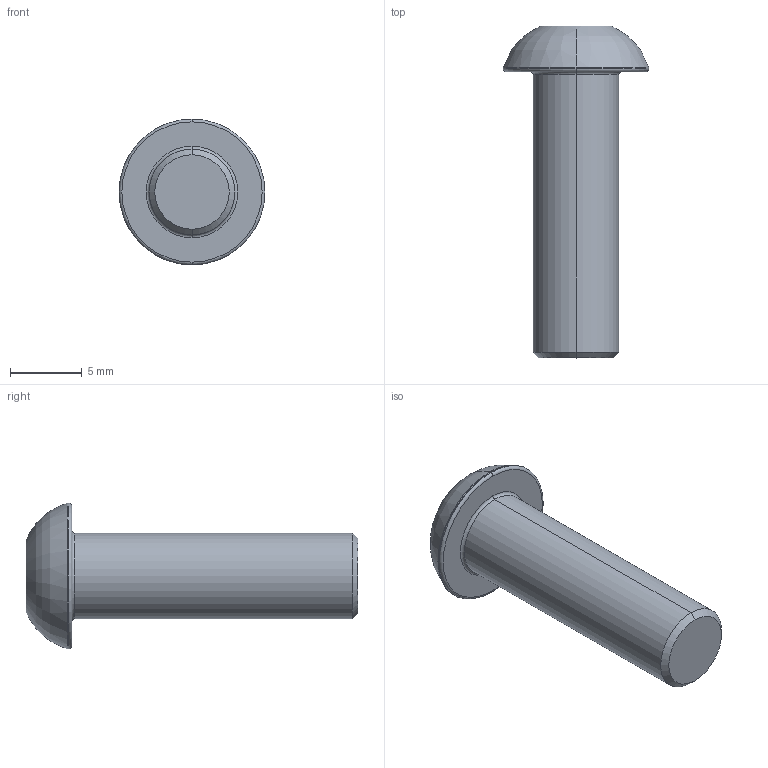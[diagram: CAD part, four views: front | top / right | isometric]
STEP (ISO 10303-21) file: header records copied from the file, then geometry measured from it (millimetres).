
FILE_DESCRIPTION (( 'STEP AP203' ), '1' );
FILE_NAME ('LGDD-304-M6x20.STEP', '2026-08-08T04:42:00', ( '' ), ( '' ), 'SwSTEP 2.0', 'SolidWorks 2020', '' );
FILE_SCHEMA (( 'CONFIG_CONTROL_DESIGN' ));
Length unit declared in the file: millimetre
Products named in the file (1): LGDD-304-M6x20
Bounding box: 10.2 x 23.2 x 10.2 mm (x, y, z)
Volume: 714.9 mm3; surface area: 618.7 mm2
Topology: 1 solids, 1 shells, 31 faces, 59 edges, 32 vertices
Faces by surface type: plane 10, cone 9, torus 8, cylinder 4
Entity records: 860 total; most frequent: CARTESIAN_POINT 150, DIRECTION 149, ORIENTED_EDGE 118, AXIS2_PLACEMENT_3D 65, EDGE_CURVE 59, CIRCLE 33, EDGE_LOOP 33, VERTEX_POINT 32
